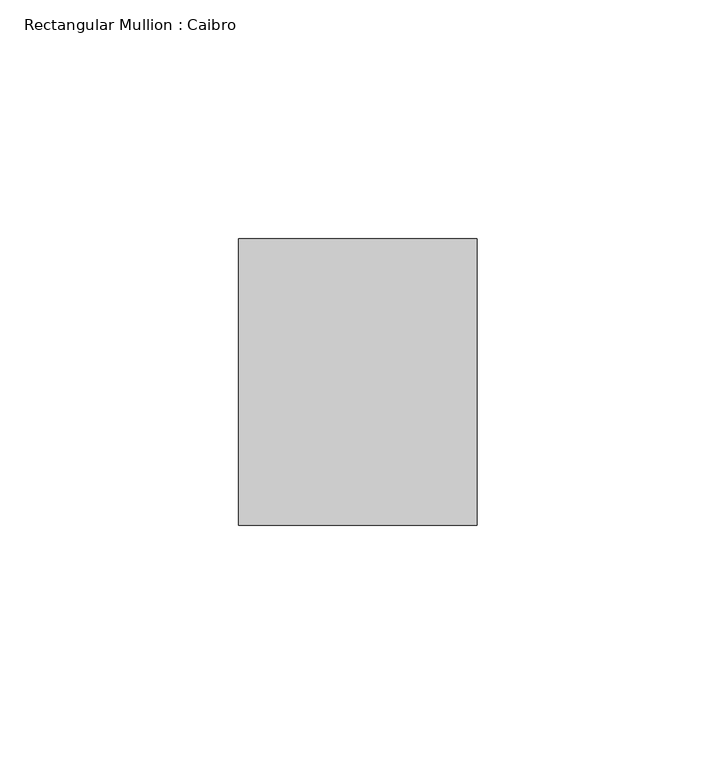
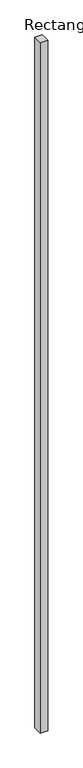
"""IFC4 building model written with IfcOpenShell, lengths in millimetres: member geometry, Rectangular Mullion : Caibro."""

from ifc_helpers import new_model, si_unit, frame, origin, place, context, project, spatial, polyline, outline, extrude, source, transform, mapped, element, save


def rectangular_mullion_caibro_ac67e9b7(model_context):
    return source(origin(), model_context, "Body", "SweptSolid", [
        extrude(outline(polyline([(0.0, -60.0), (-50.0, -60.0), (-50.0, 0.0), (0.0, 0.0), (0.0, -60.0)])), frame((0.0, 0.0, -4833.5469271), z_axis=(0.0, 0.0, 1.0), x_axis=(1.0, 0.0, 0.0)), (0.0, 0.0, 1.0), 4833.5469271),
    ])


if __name__ == "__main__":
    model = new_model("IFC4")
    model_context = context("Model", 3, world=origin())
    ifc_project = project(units=[si_unit("LENGTHUNIT", "METRE", prefix="MILLI")], contexts=[model_context])
    site = spatial("IfcSite", under=ifc_project)
    building = spatial("IfcBuilding", under=site)
    placement = place(None, origin())
    rectangular_mullion_caibro_shape = rectangular_mullion_caibro_ac67e9b7(model_context)
    element("IfcMember", 1, ObjectType="Rectangular Mullion : Caibro", at=placement, inside=building, context=model_context, shape_type="MappedRepresentation", body=[
        mapped(rectangular_mullion_caibro_shape, transform((0.0, 0.0, 0.0), x_axis=(1.0, 0.0, 0.0), y_axis=(0.0, 1.0, 0.0), z_axis=(0.0, 0.0, 1.0))),
    ])
    save(model, "model.ifc")
